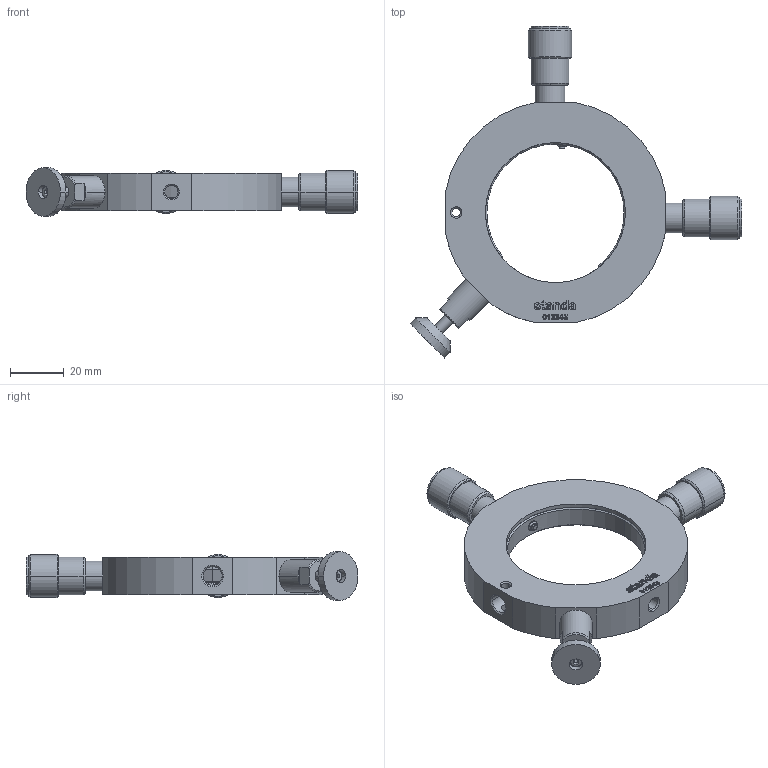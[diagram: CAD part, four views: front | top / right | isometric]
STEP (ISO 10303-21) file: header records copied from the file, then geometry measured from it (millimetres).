
FILE_DESCRIPTION (( 'STEP AP203' ), '1' );
FILE_NAME ('5ZYP-2.STEP', '2007-06-04T05:41:11', ( 'STANDA' ), ( '' ), 'SwSTEP 2.0', 'SolidWorks 2003240', '' );
FILE_SCHEMA (( 'CONFIG_CONTROL_DESIGN' ));
Length unit declared in the file: millimetre
Products named in the file (1): 5ZYP-2
Bounding box: 123.17 x 123.17 x 18 mm (x, y, z)
Volume: 45421.4 mm3; surface area: 23563 mm2
Topology: 1 solids, 9 shells, 747 faces, 1914 edges, 1243 vertices
Faces by surface type: bspline 274, plane 259, cylinder 131, cone 83
Entity records: 28608 total; most frequent: CARTESIAN_POINT 12055, ORIENTED_EDGE 3800, DIRECTION 2651, EDGE_CURVE 1900, VERTEX_POINT 1243, LINE 953, VECTOR 953, AXIS2_PLACEMENT_3D 849
